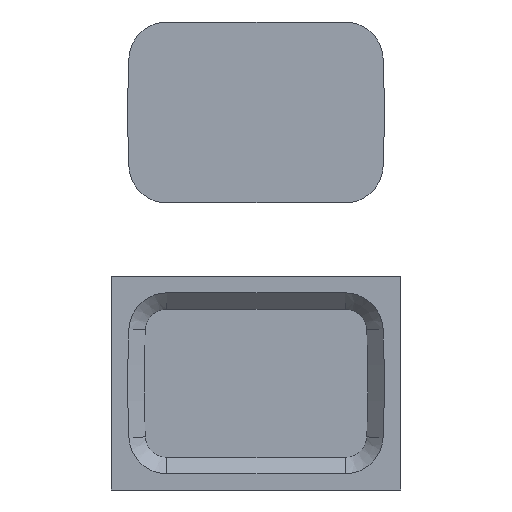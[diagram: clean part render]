
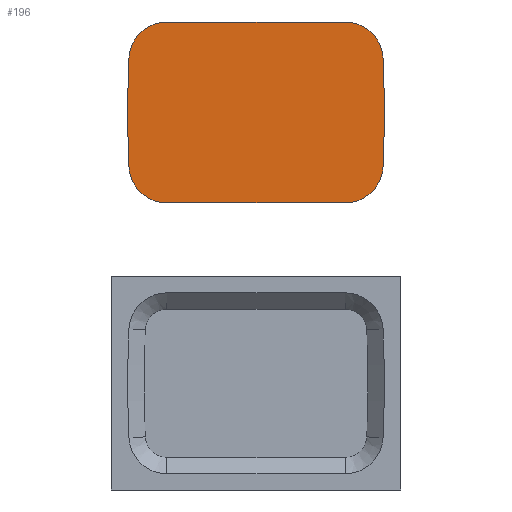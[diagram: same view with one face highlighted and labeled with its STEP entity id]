
A CAD part, front view. The second image highlights one B-rep face of the part: STEP entity #196.
In plain terms, the highlighted planar face has unit normal (0, -1, 0).
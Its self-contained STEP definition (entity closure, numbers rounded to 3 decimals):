
#18 = FACE_OUTER_BOUND ( 'NONE', #700, .T. ) ;
#28 = CARTESIAN_POINT ( 'NONE',  ( 82.324, 0., -83.5 ) ) ;
#40 = CARTESIAN_POINT ( 'NONE',  ( 917., 0., 0. ) ) ;
#72 = CIRCLE ( 'NONE', #884, 35. ) ;
#77 = CARTESIAN_POINT ( 'NONE',  ( -82.324, 0., 83.5 ) ) ;
#91 = DIRECTION ( 'NONE',  ( 0., 0., 1. ) ) ;
#118 = VECTOR ( 'NONE', #994, 1000. ) ;
#121 = AXIS2_PLACEMENT_3D ( 'NONE', #876, #889, #327 ) ;
#124 = DIRECTION ( 'NONE',  ( 0., 0., 1. ) ) ;
#125 = CARTESIAN_POINT ( 'NONE',  ( -117.283, 0., 50.197 ) ) ;
#150 = ORIENTED_EDGE ( 'NONE', *, *, #573, .F. ) ;
#179 = CARTESIAN_POINT ( 'NONE',  ( 117.283, 0., -50.197 ) ) ;
#180 = VERTEX_POINT ( 'NONE', #1007 ) ;
#196 = ADVANCED_FACE ( 'NONE', ( #18 ), #1108, .F. ) ;
#213 = EDGE_CURVE ( 'NONE', #597, #827, #222, .T. ) ;
#222 = CIRCLE ( 'NONE', #316, 1035.5 ) ;
#233 = CARTESIAN_POINT ( 'NONE',  ( -82.324, 0., -83.5 ) ) ;
#242 = DIRECTION ( 'NONE',  ( 0., 1., 0. ) ) ;
#267 = DIRECTION ( 'NONE',  ( 1., 0., 0. ) ) ;
#287 = CARTESIAN_POINT ( 'NONE',  ( 82.324, 0., 48.5 ) ) ;
#316 = AXIS2_PLACEMENT_3D ( 'NONE', #835, #1111, #560 ) ;
#320 = CARTESIAN_POINT ( 'NONE',  ( 82.324, 0., -48.5 ) ) ;
#327 = DIRECTION ( 'NONE',  ( 0., 0., 1. ) ) ;
#334 = AXIS2_PLACEMENT_3D ( 'NONE', #566, #1115, #91 ) ;
#346 = EDGE_CURVE ( 'NONE', #1006, #597, #720, .T. ) ;
#407 = EDGE_CURVE ( 'NONE', #180, #1018, #504, .T. ) ;
#422 = AXIS2_PLACEMENT_3D ( 'NONE', #287, #583, #488 ) ;
#480 = VERTEX_POINT ( 'NONE', #795 ) ;
#488 = DIRECTION ( 'NONE',  ( 0., 0., 1. ) ) ;
#504 = CIRCLE ( 'NONE', #1202, 1035.5 ) ;
#510 = ORIENTED_EDGE ( 'NONE', *, *, #605, .F. ) ;
#560 = DIRECTION ( 'NONE',  ( 0., 0., 1. ) ) ;
#566 = CARTESIAN_POINT ( 'NONE',  ( -82.324, 0., -48.5 ) ) ;
#573 = EDGE_CURVE ( 'NONE', #1113, #180, #1144, .T. ) ;
#576 = ORIENTED_EDGE ( 'NONE', *, *, #407, .F. ) ;
#583 = DIRECTION ( 'NONE',  ( 0., 1., 0. ) ) ;
#597 = VERTEX_POINT ( 'NONE', #964 ) ;
#605 = EDGE_CURVE ( 'NONE', #1018, #480, #72, .T. ) ;
#620 = DIRECTION ( 'NONE',  ( 0., 0., 1. ) ) ;
#625 = EDGE_CURVE ( 'NONE', #827, #1142, #1179, .T. ) ;
#656 = ORIENTED_EDGE ( 'NONE', *, *, #781, .F. ) ;
#682 = DIRECTION ( 'NONE',  ( 0., 0., 1. ) ) ;
#700 = EDGE_LOOP ( 'NONE', ( #150, #656, #1176, #1189, #1019, #1102, #510, #576 ) ) ;
#715 = CARTESIAN_POINT ( 'NONE',  ( -82.324, 0., -83.5 ) ) ;
#720 = CIRCLE ( 'NONE', #422, 35. ) ;
#760 = LINE ( 'NONE', #77, #1039 ) ;
#766 = EDGE_CURVE ( 'NONE', #480, #1006, #760, .T. ) ;
#781 = EDGE_CURVE ( 'NONE', #1142, #1113, #837, .T. ) ;
#791 = DIRECTION ( 'NONE',  ( 0., 1., 0. ) ) ;
#795 = CARTESIAN_POINT ( 'NONE',  ( -82.324, 0., 83.5 ) ) ;
#827 = VERTEX_POINT ( 'NONE', #179 ) ;
#835 = CARTESIAN_POINT ( 'NONE',  ( -917., 0., 0. ) ) ;
#837 = LINE ( 'NONE', #715, #118 ) ;
#850 = CARTESIAN_POINT ( 'NONE',  ( 82.324, 0., 83.5 ) ) ;
#866 = AXIS2_PLACEMENT_3D ( 'NONE', #320, #242, #682 ) ;
#876 = CARTESIAN_POINT ( 'NONE',  ( -82.324, 0., -48.5 ) ) ;
#884 = AXIS2_PLACEMENT_3D ( 'NONE', #1151, #791, #620 ) ;
#889 = DIRECTION ( 'NONE',  ( 0., 1., 0. ) ) ;
#961 = DIRECTION ( 'NONE',  ( 0., 1., 0. ) ) ;
#964 = CARTESIAN_POINT ( 'NONE',  ( 117.283, 0., 50.197 ) ) ;
#994 = DIRECTION ( 'NONE',  ( -1., 0., 0. ) ) ;
#1006 = VERTEX_POINT ( 'NONE', #850 ) ;
#1007 = CARTESIAN_POINT ( 'NONE',  ( -117.283, 0., -50.197 ) ) ;
#1018 = VERTEX_POINT ( 'NONE', #125 ) ;
#1019 = ORIENTED_EDGE ( 'NONE', *, *, #346, .F. ) ;
#1039 = VECTOR ( 'NONE', #267, 1000. ) ;
#1102 = ORIENTED_EDGE ( 'NONE', *, *, #766, .F. ) ;
#1108 = PLANE ( 'NONE',  #334 ) ;
#1111 = DIRECTION ( 'NONE',  ( 0., 1., 0. ) ) ;
#1113 = VERTEX_POINT ( 'NONE', #233 ) ;
#1115 = DIRECTION ( 'NONE',  ( 0., 1., 0. ) ) ;
#1142 = VERTEX_POINT ( 'NONE', #28 ) ;
#1144 = CIRCLE ( 'NONE', #121, 35. ) ;
#1151 = CARTESIAN_POINT ( 'NONE',  ( -82.324, 0., 48.5 ) ) ;
#1176 = ORIENTED_EDGE ( 'NONE', *, *, #625, .F. ) ;
#1179 = CIRCLE ( 'NONE', #866, 35. ) ;
#1189 = ORIENTED_EDGE ( 'NONE', *, *, #213, .F. ) ;
#1202 = AXIS2_PLACEMENT_3D ( 'NONE', #40, #961, #124 ) ;
